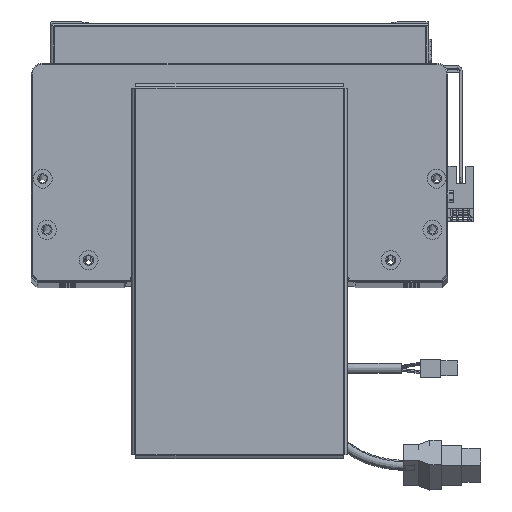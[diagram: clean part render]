
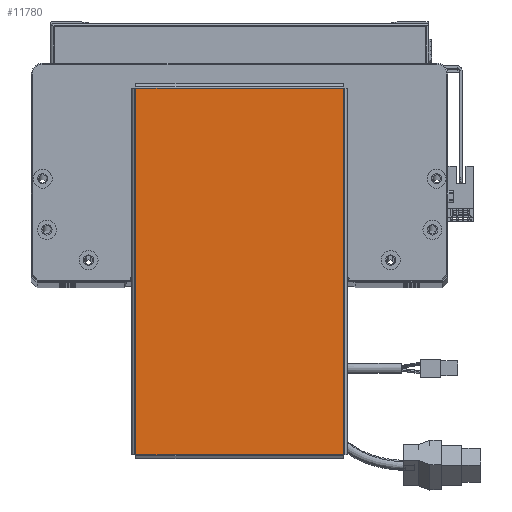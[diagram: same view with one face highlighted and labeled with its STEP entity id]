
A CAD part, top view. The second image highlights one B-rep face of the part: STEP entity #11780.
In plain terms, the highlighted planar face has unit normal (0, 0, 1).
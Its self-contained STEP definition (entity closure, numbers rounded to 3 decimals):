
#6294 = LINE ( 'NONE', #63772, #61058 ) ;
#6549 = ORIENTED_EDGE ( 'NONE', *, *, #34602, .T. ) ;
#6939 = DIRECTION ( 'NONE',  ( -1., 0., 0. ) ) ;
#7156 = LINE ( 'NONE', #7776, #37803 ) ;
#7515 = CARTESIAN_POINT ( 'NONE',  ( 96.763, 54.763, 0. ) ) ;
#7776 = CARTESIAN_POINT ( 'NONE',  ( -96.763, 54.793, 0. ) ) ;
#11780 = ADVANCED_FACE ( 'NONE', ( #31671 ), #14522, .T. ) ;
#14227 = ORIENTED_EDGE ( 'NONE', *, *, #61315, .T. ) ;
#14378 = CARTESIAN_POINT ( 'NONE',  ( 96.763, -54.793, 0. ) ) ;
#14522 = PLANE ( 'NONE',  #35400 ) ;
#16396 = DIRECTION ( 'NONE',  ( 1., 0., 0. ) ) ;
#16740 = EDGE_LOOP ( 'NONE', ( #22301, #14227, #52738, #6549 ) ) ;
#17883 = DIRECTION ( 'NONE',  ( 0., -1., 0. ) ) ;
#18198 = CARTESIAN_POINT ( 'NONE',  ( 96.793, 54.763, 0. ) ) ;
#21067 = CARTESIAN_POINT ( 'NONE',  ( 96.763, -54.763, 0. ) ) ;
#22301 = ORIENTED_EDGE ( 'NONE', *, *, #37782, .T. ) ;
#24113 = DIRECTION ( 'NONE',  ( 0., 1., 0. ) ) ;
#26809 = VERTEX_POINT ( 'NONE', #21067 ) ;
#28469 = CARTESIAN_POINT ( 'NONE',  ( -96.763, 54.763, 0. ) ) ;
#29240 = VECTOR ( 'NONE', #6939, 1000. ) ;
#30534 = DIRECTION ( 'NONE',  ( 0., 0., 1. ) ) ;
#30745 = CARTESIAN_POINT ( 'NONE',  ( 0., 0., 0. ) ) ;
#31671 = FACE_OUTER_BOUND ( 'NONE', #16740, .T. ) ;
#34602 = EDGE_CURVE ( 'NONE', #59968, #34851, #7156, .T. ) ;
#34851 = VERTEX_POINT ( 'NONE', #63584 ) ;
#35400 = AXIS2_PLACEMENT_3D ( 'NONE', #30745, #30534, #67650 ) ;
#37782 = EDGE_CURVE ( 'NONE', #34851, #26809, #6294, .T. ) ;
#37803 = VECTOR ( 'NONE', #17883, 1000. ) ;
#41184 = VECTOR ( 'NONE', #24113, 1000. ) ;
#46011 = VERTEX_POINT ( 'NONE', #7515 ) ;
#52738 = ORIENTED_EDGE ( 'NONE', *, *, #55931, .T. ) ;
#55931 = EDGE_CURVE ( 'NONE', #46011, #59968, #57522, .T. ) ;
#56994 = LINE ( 'NONE', #14378, #41184 ) ;
#57522 = LINE ( 'NONE', #18198, #29240 ) ;
#59968 = VERTEX_POINT ( 'NONE', #28469 ) ;
#61058 = VECTOR ( 'NONE', #16396, 1000. ) ;
#61315 = EDGE_CURVE ( 'NONE', #26809, #46011, #56994, .T. ) ;
#63584 = CARTESIAN_POINT ( 'NONE',  ( -96.763, -54.763, 0. ) ) ;
#63772 = CARTESIAN_POINT ( 'NONE',  ( -96.793, -54.763, 0. ) ) ;
#67650 = DIRECTION ( 'NONE',  ( 1., 0., 0. ) ) ;
